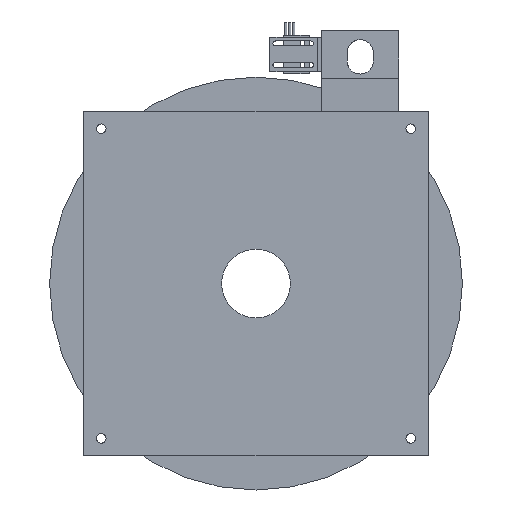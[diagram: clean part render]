
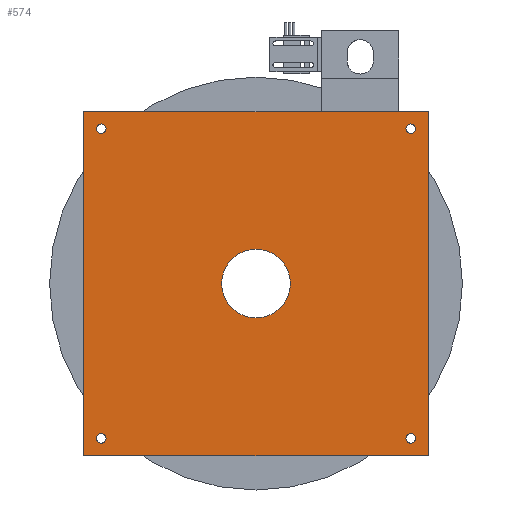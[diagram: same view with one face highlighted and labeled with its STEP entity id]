
A CAD part, front view. The second image highlights one B-rep face of the part: STEP entity #574.
In plain terms, the highlighted planar face has unit normal (0, -1, 0).
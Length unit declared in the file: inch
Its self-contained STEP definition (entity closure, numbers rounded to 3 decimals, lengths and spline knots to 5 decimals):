
#93=DIRECTION('',(0.,0.,-1.));
#94=VECTOR('',#93,10.);
#95=CARTESIAN_POINT('',(-5.,-2.22,5.));
#96=LINE('',#95,#94);
#97=DIRECTION('',(-1.,0.,0.));
#98=VECTOR('',#97,10.);
#99=CARTESIAN_POINT('',(5.,-2.22,5.));
#100=LINE('',#99,#98);
#101=DIRECTION('',(0.,0.,1.));
#102=VECTOR('',#101,10.);
#103=CARTESIAN_POINT('',(5.,-2.22,-5.));
#104=LINE('',#103,#102);
#105=DIRECTION('',(1.,0.,0.));
#106=VECTOR('',#105,10.);
#107=CARTESIAN_POINT('',(-5.,-2.22,-5.));
#108=LINE('',#107,#106);
#109=CARTESIAN_POINT('',(4.5,-2.22,-4.5));
#110=DIRECTION('',(0.,1.,0.));
#111=DIRECTION('',(-1.,0.,0.));
#112=AXIS2_PLACEMENT_3D('',#109,#110,#111);
#114=CARTESIAN_POINT('',(4.5,-2.22,-4.5));
#115=DIRECTION('',(0.,1.,0.));
#116=DIRECTION('',(1.,0.,0.));
#117=AXIS2_PLACEMENT_3D('',#114,#115,#116);
#119=CARTESIAN_POINT('',(4.5,-2.22,4.5));
#120=DIRECTION('',(0.,-1.,0.));
#121=DIRECTION('',(-1.,0.,0.));
#122=AXIS2_PLACEMENT_3D('',#119,#120,#121);
#124=CARTESIAN_POINT('',(4.5,-2.22,4.5));
#125=DIRECTION('',(0.,-1.,0.));
#126=DIRECTION('',(1.,0.,0.));
#127=AXIS2_PLACEMENT_3D('',#124,#125,#126);
#129=CARTESIAN_POINT('',(-4.5,-2.22,-4.5));
#130=DIRECTION('',(0.,-1.,0.));
#131=DIRECTION('',(1.,0.,0.));
#132=AXIS2_PLACEMENT_3D('',#129,#130,#131);
#134=CARTESIAN_POINT('',(-4.5,-2.22,-4.5));
#135=DIRECTION('',(0.,-1.,0.));
#136=DIRECTION('',(-1.,0.,0.));
#137=AXIS2_PLACEMENT_3D('',#134,#135,#136);
#139=CARTESIAN_POINT('',(-4.5,-2.22,4.5));
#140=DIRECTION('',(0.,1.,0.));
#141=DIRECTION('',(1.,0.,0.));
#142=AXIS2_PLACEMENT_3D('',#139,#140,#141);
#144=CARTESIAN_POINT('',(-4.5,-2.22,4.5));
#145=DIRECTION('',(0.,1.,0.));
#146=DIRECTION('',(-1.,0.,0.));
#147=AXIS2_PLACEMENT_3D('',#144,#145,#146);
#149=CARTESIAN_POINT('',(0.,-2.22,0.));
#150=DIRECTION('',(0.,-1.,0.));
#151=DIRECTION('',(1.,0.,0.));
#152=AXIS2_PLACEMENT_3D('',#149,#150,#151);
#154=CARTESIAN_POINT('',(0.,-2.22,0.));
#155=DIRECTION('',(0.,-1.,0.));
#156=DIRECTION('',(-1.,0.,0.));
#157=AXIS2_PLACEMENT_3D('',#154,#155,#156);
#337=CARTESIAN_POINT('',(-5.,-2.22,5.));
#338=CARTESIAN_POINT('',(-5.,-2.22,-5.));
#339=VERTEX_POINT('',#337);
#340=VERTEX_POINT('',#338);
#341=CARTESIAN_POINT('',(5.,-2.22,-5.));
#342=VERTEX_POINT('',#341);
#343=CARTESIAN_POINT('',(5.,-2.22,5.));
#344=VERTEX_POINT('',#343);
#345=CARTESIAN_POINT('',(4.36,-2.22,-4.5));
#346=CARTESIAN_POINT('',(4.64,-2.22,-4.5));
#347=VERTEX_POINT('',#345);
#348=VERTEX_POINT('',#346);
#361=CARTESIAN_POINT('',(4.36,-2.22,4.5));
#362=CARTESIAN_POINT('',(4.64,-2.22,4.5));
#363=VERTEX_POINT('',#361);
#364=VERTEX_POINT('',#362);
#365=CARTESIAN_POINT('',(-4.36,-2.22,-4.5));
#366=CARTESIAN_POINT('',(-4.64,-2.22,-4.5));
#367=VERTEX_POINT('',#365);
#368=VERTEX_POINT('',#366);
#369=CARTESIAN_POINT('',(-4.36,-2.22,4.5));
#370=CARTESIAN_POINT('',(-4.64,-2.22,4.5));
#371=VERTEX_POINT('',#369);
#372=VERTEX_POINT('',#370);
#413=CARTESIAN_POINT('',(1.,-2.22,0.));
#414=CARTESIAN_POINT('',(-1.,-2.22,0.));
#415=VERTEX_POINT('',#413);
#416=VERTEX_POINT('',#414);
#533=CARTESIAN_POINT('',(0.,-2.22,0.));
#534=DIRECTION('',(0.,-1.,0.));
#535=DIRECTION('',(0.,0.,-1.));
#536=AXIS2_PLACEMENT_3D('',#533,#534,#535);
#537=PLANE('',#536);
#538=ORIENTED_EDGE('',*,*,#479,.F.);
#539=ORIENTED_EDGE('',*,*,#494,.F.);
#540=ORIENTED_EDGE('',*,*,#514,.F.);
#541=ORIENTED_EDGE('',*,*,#527,.F.);
#542=EDGE_LOOP('',(#538,#539,#540,#541));
#543=FACE_OUTER_BOUND('',#542,.F.);
#545=ORIENTED_EDGE('',*,*,#544,.F.);
#547=ORIENTED_EDGE('',*,*,#546,.F.);
#548=EDGE_LOOP('',(#545,#547));
#549=FACE_BOUND('',#548,.F.);
#551=ORIENTED_EDGE('',*,*,#550,.T.);
#553=ORIENTED_EDGE('',*,*,#552,.T.);
#554=EDGE_LOOP('',(#551,#553));
#555=FACE_BOUND('',#554,.F.);
#557=ORIENTED_EDGE('',*,*,#556,.T.);
#559=ORIENTED_EDGE('',*,*,#558,.T.);
#560=EDGE_LOOP('',(#557,#559));
#561=FACE_BOUND('',#560,.F.);
#563=ORIENTED_EDGE('',*,*,#562,.F.);
#565=ORIENTED_EDGE('',*,*,#564,.F.);
#566=EDGE_LOOP('',(#563,#565));
#567=FACE_BOUND('',#566,.F.);
#569=ORIENTED_EDGE('',*,*,#568,.T.);
#571=ORIENTED_EDGE('',*,*,#570,.T.);
#572=EDGE_LOOP('',(#569,#571));
#573=FACE_BOUND('',#572,.F.);
#574=ADVANCED_FACE('',(#543,#549,#555,#561,#567,#573),#537,.T.);
#113=CIRCLE('',#112,0.14);
#118=CIRCLE('',#117,0.14);
#123=CIRCLE('',#122,0.14);
#128=CIRCLE('',#127,0.14);
#133=CIRCLE('',#132,0.14);
#138=CIRCLE('',#137,0.14);
#143=CIRCLE('',#142,0.14);
#148=CIRCLE('',#147,0.14);
#153=CIRCLE('',#152,1.);
#158=CIRCLE('',#157,1.);
#479=EDGE_CURVE('',#339,#340,#96,.T.);
#494=EDGE_CURVE('',#344,#339,#100,.T.);
#514=EDGE_CURVE('',#342,#344,#104,.T.);
#527=EDGE_CURVE('',#340,#342,#108,.T.);
#544=EDGE_CURVE('',#347,#348,#113,.T.);
#546=EDGE_CURVE('',#348,#347,#118,.T.);
#550=EDGE_CURVE('',#363,#364,#123,.T.);
#552=EDGE_CURVE('',#364,#363,#128,.T.);
#556=EDGE_CURVE('',#367,#368,#133,.T.);
#558=EDGE_CURVE('',#368,#367,#138,.T.);
#562=EDGE_CURVE('',#371,#372,#143,.T.);
#564=EDGE_CURVE('',#372,#371,#148,.T.);
#568=EDGE_CURVE('',#415,#416,#153,.T.);
#570=EDGE_CURVE('',#416,#415,#158,.T.);
